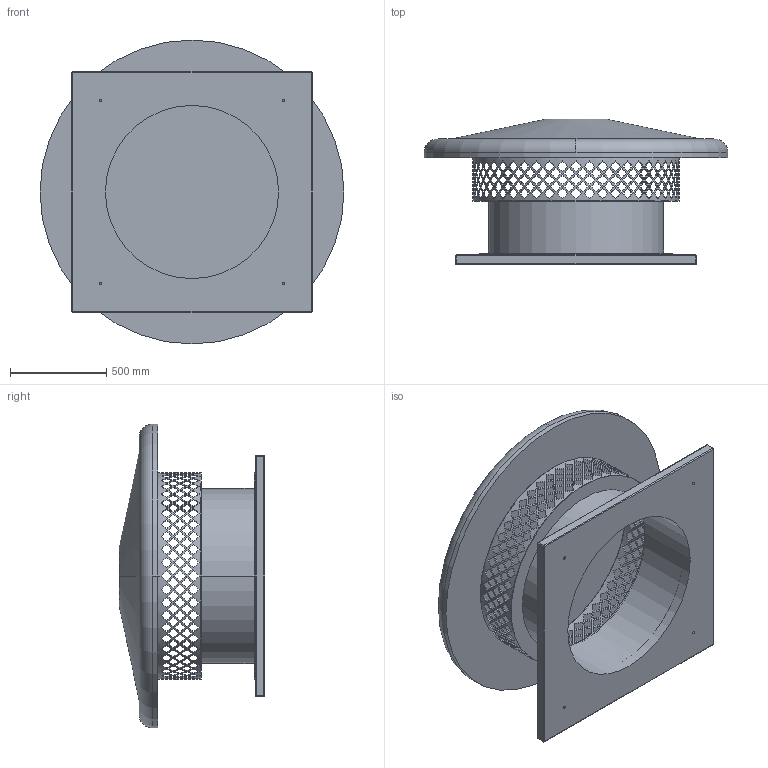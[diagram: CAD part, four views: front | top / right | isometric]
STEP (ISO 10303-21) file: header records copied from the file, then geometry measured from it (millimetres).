
FILE_DESCRIPTION(('STEP AP214'),'1');
FILE_NAME('fan_5113462500.stp','2017-03-31T12:42:56',('TraceParts'),('TraceParts S.A.'),'Spatial InterOp 3D',' ',' ');
FILE_SCHEMA(('automotive_design'));
Length unit declared in the file: millimetre
Products named in the file (1): fan_5113462500
Bounding box: 1580 x 756 x 1580 mm (x, y, z)
Volume: 297964049.1 mm3; surface area: 9444709.6 mm2
Topology: 1 solids, 1 shells, 1019 faces, 3028 edges, 1998 vertices
Faces by surface type: plane 973, cylinder 32, sphere 8, torus 4, cone 2
Entity records: 44432 total; most frequent: DIRECTION 7062, ORIENTED_EDGE 6040, CARTESIAN_POINT 6038, AXIS2_PLACEMENT_3D 3022, EDGE_CURVE 3020, VERTEX_POINT 1998, ELLIPSE 1920, EDGE_LOOP 1502
